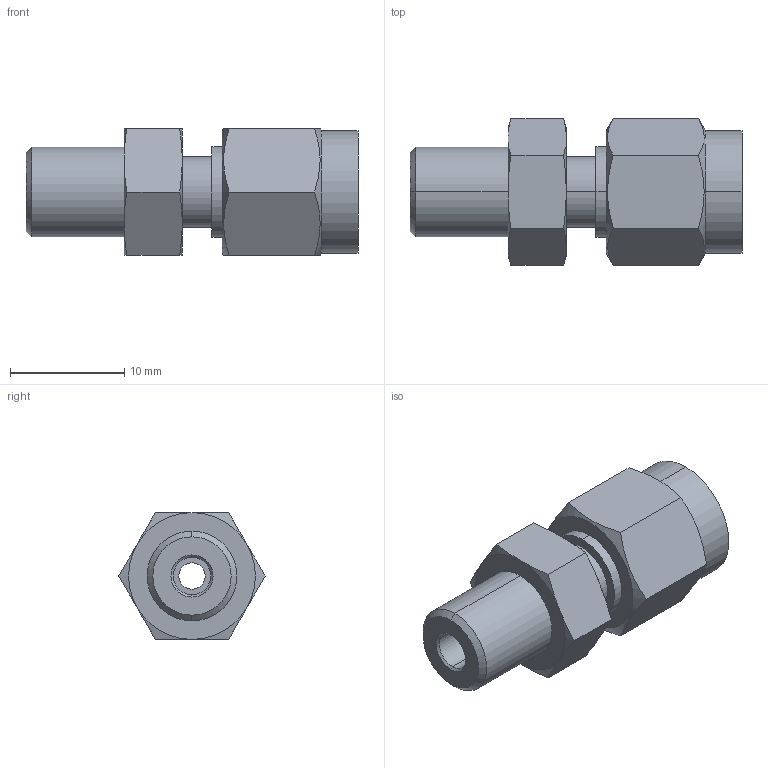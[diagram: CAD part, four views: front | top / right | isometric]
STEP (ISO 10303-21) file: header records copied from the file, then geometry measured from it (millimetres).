
FILE_DESCRIPTION (( 'STEP AP203' ), '1' );
FILE_NAME ('DCW02-02 SS.STEP', '2009-09-08T05:53:02', ( ' ' ), ( '' ), 'SwSTEP 2.0', 'SolidWorks 2008', '' );
FILE_SCHEMA (( 'CONFIG_CONTROL_DESIGN' ));
Length unit declared in the file: millimetre
Products named in the file (1): DCW02-02 SS
Bounding box: 29.1 x 12.83 x 11.11 mm (x, y, z)
Volume: 2095.8 mm3; surface area: 1518.3 mm2
Topology: 1 solids, 1 shells, 54 faces, 120 edges, 74 vertices
Faces by surface type: cone 20, plane 20, cylinder 14
Entity records: 1679 total; most frequent: CARTESIAN_POINT 441, ORIENTED_EDGE 240, DIRECTION 236, EDGE_CURVE 120, AXIS2_PLACEMENT_3D 101, VERTEX_POINT 74, EDGE_LOOP 62, ADVANCED_FACE 54
